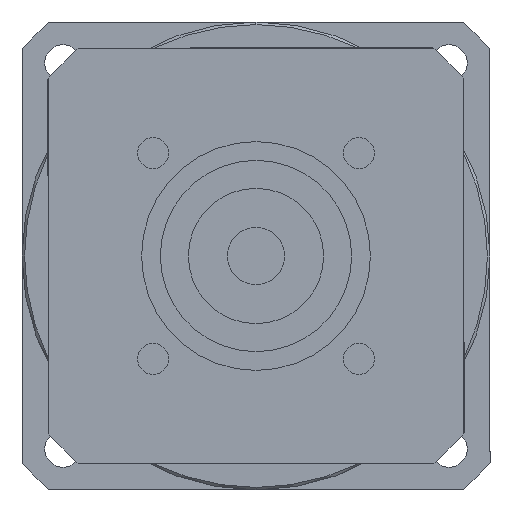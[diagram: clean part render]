
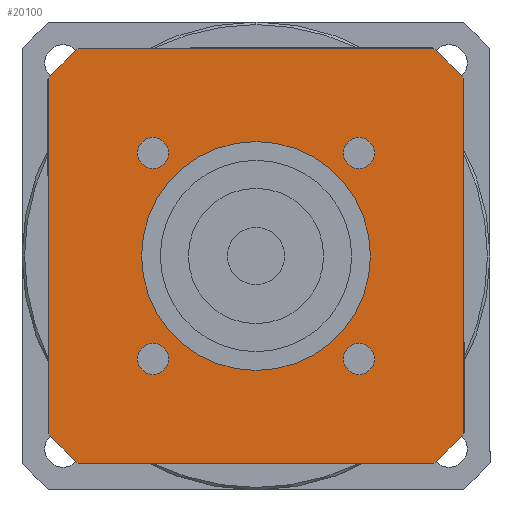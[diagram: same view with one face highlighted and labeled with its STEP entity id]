
A CAD part, left-side view. The second image highlights one B-rep face of the part: STEP entity #20100.
In plain terms, the highlighted planar face has unit normal (-1, 0, 0) as drawn and (0, 0, -1) by its records, which use the part's own axes.
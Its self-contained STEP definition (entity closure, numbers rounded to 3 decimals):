
#15810=CARTESIAN_POINT('',(-34.004,40.,-119.));
#15820=VERTEX_POINT('',#15810);
#15980=CARTESIAN_POINT('',(-40.,34.004,-119.));
#15990=VERTEX_POINT('',#15980);
#16020=CARTESIAN_POINT('',(0.,0.,
-119.));
#16030=DIRECTION('',(0.,0.,1.));
#16040=DIRECTION('',(0.,-1.,0.));
#16050=AXIS2_PLACEMENT_3D('',#16020,#16030,#16040);
#16060=CIRCLE('',#16050,52.5);
#16070=EDGE_CURVE('',#15820,#15990,#16060,.T.);
#18340=CARTESIAN_POINT('',(34.004,40.,-119.));
#18350=VERTEX_POINT('',#18340);
#18480=CARTESIAN_POINT('',(40.,40.,-119.));
#18490=DIRECTION('',(-1.,0.,0.));
#18500=VECTOR('',#18490,1000.);
#18510=LINE('',#18480,#18500);
#18520=EDGE_CURVE('',#18350,#15820,#18510,.T.);
#18570=CARTESIAN_POINT('',(-40.,40.,-119.));
#18580=DIRECTION('',(0.,0.,1.));
#18590=DIRECTION('',(-1.,0.,0.));
#18600=AXIS2_PLACEMENT_3D('',#18570,#18580,#18590);
#18610=PLANE('',#18600);
#18620=CARTESIAN_POINT('',(19.799,-19.799,-119.));
#18630=DIRECTION('',(0.,0.,-1.));
#18640=DIRECTION('',(1.,0.,0.));
#18650=AXIS2_PLACEMENT_3D('',#18620,#18630,#18640);
#18660=CIRCLE('',#18650,3.);
#18670=CARTESIAN_POINT('',(22.799,-19.799,-119.));
#18680=VERTEX_POINT('',#18670);
#18690=CARTESIAN_POINT('',(19.799,-22.799,-119.));
#18700=VERTEX_POINT('',#18690);
#18710=EDGE_CURVE('',#18680,#18700,#18660,.T.);
#18720=ORIENTED_EDGE('',*,*,#18710,.F.);
#18730=CARTESIAN_POINT('',(19.799,-16.799,-119.));
#18740=VERTEX_POINT('',#18730);
#18750=EDGE_CURVE('',#18700,#18740,#18660,.T.);
#18760=ORIENTED_EDGE('',*,*,#18750,.F.);
#18770=EDGE_CURVE('',#18740,#18680,#18660,.T.);
#18780=ORIENTED_EDGE('',*,*,#18770,.F.);
#18790=EDGE_LOOP('',(#18780,#18760,#18720));
#18800=FACE_BOUND('',#18790,.T.);
#18810=CARTESIAN_POINT('',(19.799,19.799,-119.));
#18820=DIRECTION('',(0.,0.,-1.));
#18830=DIRECTION('',(0.,1.,0.));
#18840=AXIS2_PLACEMENT_3D('',#18810,#18820,#18830);
#18850=CIRCLE('',#18840,3.);
#18860=CARTESIAN_POINT('',(19.799,22.799,-119.));
#18870=VERTEX_POINT('',#18860);
#18880=CARTESIAN_POINT('',(22.799,19.799,-119.));
#18890=VERTEX_POINT('',#18880);
#18900=EDGE_CURVE('',#18870,#18890,#18850,.T.);
#18910=ORIENTED_EDGE('',*,*,#18900,.F.);
#18920=CARTESIAN_POINT('',(16.799,19.799,-119.));
#18930=VERTEX_POINT('',#18920);
#18940=EDGE_CURVE('',#18890,#18930,#18850,.T.);
#18950=ORIENTED_EDGE('',*,*,#18940,.F.);
#18960=EDGE_CURVE('',#18930,#18870,#18850,.T.);
#18970=ORIENTED_EDGE('',*,*,#18960,.F.);
#18980=EDGE_LOOP('',(#18970,#18950,#18910));
#18990=FACE_BOUND('',#18980,.T.);
#19000=CARTESIAN_POINT('',(-19.799,19.799,-119.));
#19010=DIRECTION('',(0.,0.,-1.));
#19020=DIRECTION('',(-1.,0.,0.));
#19030=AXIS2_PLACEMENT_3D('',#19000,#19010,#19020);
#19040=CIRCLE('',#19030,3.);
#19050=CARTESIAN_POINT('',(-22.799,19.799,-119.));
#19060=VERTEX_POINT('',#19050);
#19070=CARTESIAN_POINT('',(-19.799,22.799,-119.));
#19080=VERTEX_POINT('',#19070);
#19090=EDGE_CURVE('',#19060,#19080,#19040,.T.);
#19100=ORIENTED_EDGE('',*,*,#19090,.F.);
#19110=CARTESIAN_POINT('',(-19.799,16.799,-119.));
#19120=VERTEX_POINT('',#19110);
#19130=EDGE_CURVE('',#19080,#19120,#19040,.T.);
#19140=ORIENTED_EDGE('',*,*,#19130,.F.);
#19150=EDGE_CURVE('',#19120,#19060,#19040,.T.);
#19160=ORIENTED_EDGE('',*,*,#19150,.F.);
#19170=EDGE_LOOP('',(#19160,#19140,#19100));
#19180=FACE_BOUND('',#19170,.T.);
#19190=CARTESIAN_POINT('',(-19.799,-19.799,-119.));
#19200=DIRECTION('',(0.,0.,-1.));
#19210=DIRECTION('',(0.,-1.,0.));
#19220=AXIS2_PLACEMENT_3D('',#19190,#19200,#19210);
#19230=CIRCLE('',#19220,3.);
#19240=CARTESIAN_POINT('',(-19.799,-22.799,-119.));
#19250=VERTEX_POINT('',#19240);
#19260=CARTESIAN_POINT('',(-22.799,-19.799,-119.));
#19270=VERTEX_POINT('',#19260);
#19280=EDGE_CURVE('',#19250,#19270,#19230,.T.);
#19290=ORIENTED_EDGE('',*,*,#19280,.F.);
#19300=CARTESIAN_POINT('',(-16.799,-19.799,-119.));
#19310=VERTEX_POINT('',#19300);
#19320=EDGE_CURVE('',#19270,#19310,#19230,.T.);
#19330=ORIENTED_EDGE('',*,*,#19320,.F.);
#19340=EDGE_CURVE('',#19310,#19250,#19230,.T.);
#19350=ORIENTED_EDGE('',*,*,#19340,.F.);
#19360=EDGE_LOOP('',(#19350,#19330,#19290));
#19370=FACE_BOUND('',#19360,.T.);
#19380=CARTESIAN_POINT('',(0.,0.,
-119.));
#19390=DIRECTION('',(0.,0.,1.));
#19400=DIRECTION('',(0.,-1.,0.));
#19410=AXIS2_PLACEMENT_3D('',#19380,#19390,#19400);
#19420=CIRCLE('',#19410,52.5);
#19430=CARTESIAN_POINT('',(-40.,-34.004,-119.));
#19440=VERTEX_POINT('',#19430);
#19450=CARTESIAN_POINT('',(-34.004,-40.,-119.));
#19460=VERTEX_POINT('',#19450);
#19470=EDGE_CURVE('',#19440,#19460,#19420,.T.);
#19480=ORIENTED_EDGE('',*,*,#19470,.F.);
#19490=CARTESIAN_POINT('',(-40.,-40.,-119.));
#19500=DIRECTION('',(1.,0.,0.));
#19510=VECTOR('',#19500,1000.);
#19520=LINE('',#19490,#19510);
#19530=CARTESIAN_POINT('',(34.004,-40.,-119.));
#19540=VERTEX_POINT('',#19530);
#19550=EDGE_CURVE('',#19460,#19540,#19520,.T.);
#19560=ORIENTED_EDGE('',*,*,#19550,.F.);
#19570=CARTESIAN_POINT('',(0.,0.,
-119.));
#19580=DIRECTION('',(0.,0.,1.));
#19590=DIRECTION('',(0.,-1.,0.));
#19600=AXIS2_PLACEMENT_3D('',#19570,#19580,#19590);
#19610=CIRCLE('',#19600,52.5);
#19620=CARTESIAN_POINT('',(40.,-34.004,-119.));
#19630=VERTEX_POINT('',#19620);
#19640=EDGE_CURVE('',#19540,#19630,#19610,.T.);
#19650=ORIENTED_EDGE('',*,*,#19640,.F.);
#19660=CARTESIAN_POINT('',(40.,-40.,-119.));
#19670=DIRECTION('',(0.,1.,0.));
#19680=VECTOR('',#19670,1000.);
#19690=LINE('',#19660,#19680);
#19700=CARTESIAN_POINT('',(40.,34.004,-119.));
#19710=VERTEX_POINT('',#19700);
#19720=EDGE_CURVE('',#19630,#19710,#19690,.T.);
#19730=ORIENTED_EDGE('',*,*,#19720,.F.);
#19740=CARTESIAN_POINT('',(0.,0.,
-119.));
#19750=DIRECTION('',(0.,0.,1.));
#19760=DIRECTION('',(0.,-1.,0.));
#19770=AXIS2_PLACEMENT_3D('',#19740,#19750,#19760);
#19780=CIRCLE('',#19770,52.5);
#19790=EDGE_CURVE('',#19710,#18350,#19780,.T.);
#19800=ORIENTED_EDGE('',*,*,#19790,.F.);
#19810=ORIENTED_EDGE('',*,*,#18520,.F.);
#19820=ORIENTED_EDGE('',*,*,#16070,.F.);
#19830=CARTESIAN_POINT('',(-40.,40.,-119.));
#19840=DIRECTION('',(0.,-1.,0.));
#19850=VECTOR('',#19840,1000.);
#19860=LINE('',#19830,#19850);
#19870=EDGE_CURVE('',#15990,#19440,#19860,.T.);
#19880=ORIENTED_EDGE('',*,*,#19870,.F.);
#19890=EDGE_LOOP('',(#19880,#19820,#19810,#19800,#19730,#19650,#19560,
#19480));
#19900=FACE_OUTER_BOUND('',#19890,.T.);
#19910=CARTESIAN_POINT('',(0.,0.,
-119.));
#19920=DIRECTION('',(0.,0.,1.));
#19930=DIRECTION('',(0.,-1.,0.));
#19940=AXIS2_PLACEMENT_3D('',#19910,#19920,#19930);
#19950=CIRCLE('',#19940,22.);
#19960=CARTESIAN_POINT('',(22.,0.,-119.));
#19970=VERTEX_POINT('',#19960);
#19980=CARTESIAN_POINT('',(-22.,0.,-119.));
#19990=VERTEX_POINT('',#19980);
#20000=EDGE_CURVE('',#19970,#19990,#19950,.T.);
#20010=ORIENTED_EDGE('',*,*,#20000,.T.);
#20020=CARTESIAN_POINT('',(0.,-22.,-119.));
#20030=VERTEX_POINT('',#20020);
#20040=EDGE_CURVE('',#20030,#19970,#19950,.T.);
#20050=ORIENTED_EDGE('',*,*,#20040,.T.);
#20060=EDGE_CURVE('',#19990,#20030,#19950,.T.);
#20070=ORIENTED_EDGE('',*,*,#20060,.T.);
#20080=EDGE_LOOP('',(#20070,#20050,#20010));
#20090=FACE_BOUND('',#20080,.T.);
#20100=ADVANCED_FACE('',(#18800,#18990,#19180,#19370,#19900,#20090),
#18610,.F.);
